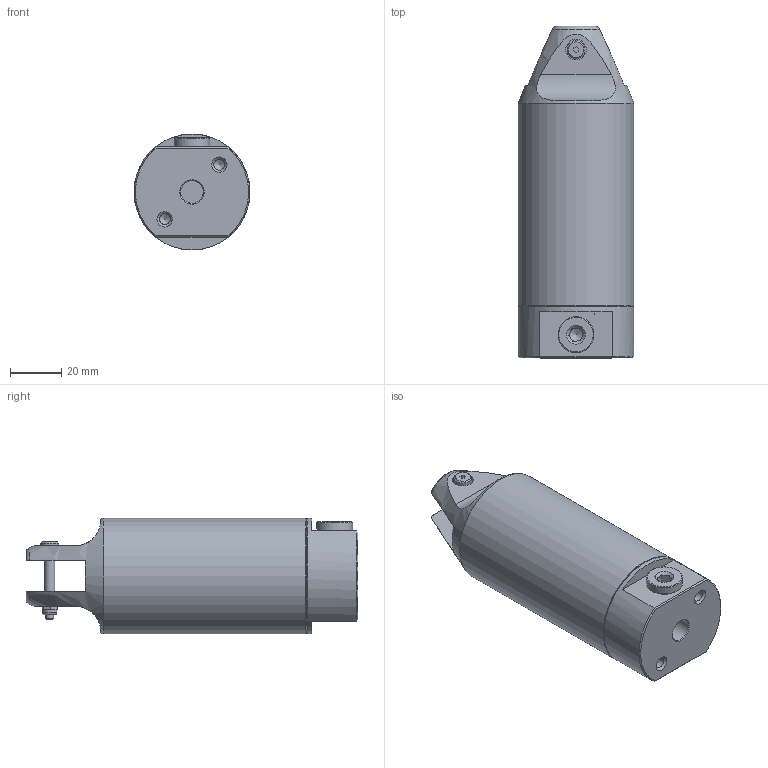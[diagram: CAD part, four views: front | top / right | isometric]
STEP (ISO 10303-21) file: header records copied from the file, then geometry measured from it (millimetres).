
FILE_DESCRIPTION(('STEP AP214'),'1');
FILE_NAME('CA.ATE.20M.stp','2020-04-16T07:03:30',(' '),(' '),'Spatial InterOp 3D',' ',' ');
FILE_SCHEMA(('AUTOMOTIVE_DESIGN { 1 0 10303 214 1 1 1 1 }'));
Length unit declared in the file: millimetre
Products named in the file (11): CA.ATE.20M; D.3AUT; R.3; V.UMB.04.20.M3; M.37,5x80; CA.08.14.014; 10.01.006.1; 10.01.006.2; 10.01.006.3; OR.4125; OR.2150
Assembly tree (10 placements, depth 2):
  CA.ATE.20M
    D.3AUT
    R.3
    V.UMB.04.20.M3
    M.37,5x80
    CA.08.14.014
    10.01.006.1
    10.01.006.2
    10.01.006.3
    OR.4125
    OR.2150
Bounding box: 45 x 129 x 45 mm (x, y, z)
Volume: 106767.6 mm3; surface area: 53252.9 mm2
Topology: 10 solids, 10 shells, 164 faces, 358 edges, 229 vertices
Faces by surface type: plane 85, cylinder 44, cone 26, torus 8, bspline 1
Full cylindrical faces by diameter (mm): 2.2 x1, 2.5 x1, 3 x1, 3.2 x1, 3.4 x1, 4 x3, 4.2 x2, 5.1 x1, 5.5 x1, 7 x2, 8 x2, 8.2 x1, 8.8 x3, 9.728 x1, 14 x1, 30 x1, 31.8 x1, 32 x2, 37.8 x2, 37.9 x1, 38 x1, 38.5 x1, 40 x1, 41 x3, 45 x2
Entity records: 6868 total; most frequent: CARTESIAN_POINT 1820, DIRECTION 708, ORIENTED_EDGE 528, AXIS2_PLACEMENT_3D 305, EDGE_CURVE 264, EDGE_LOOP 261, VERTEX_POINT 206, FACE_OUTER_BOUND 203
